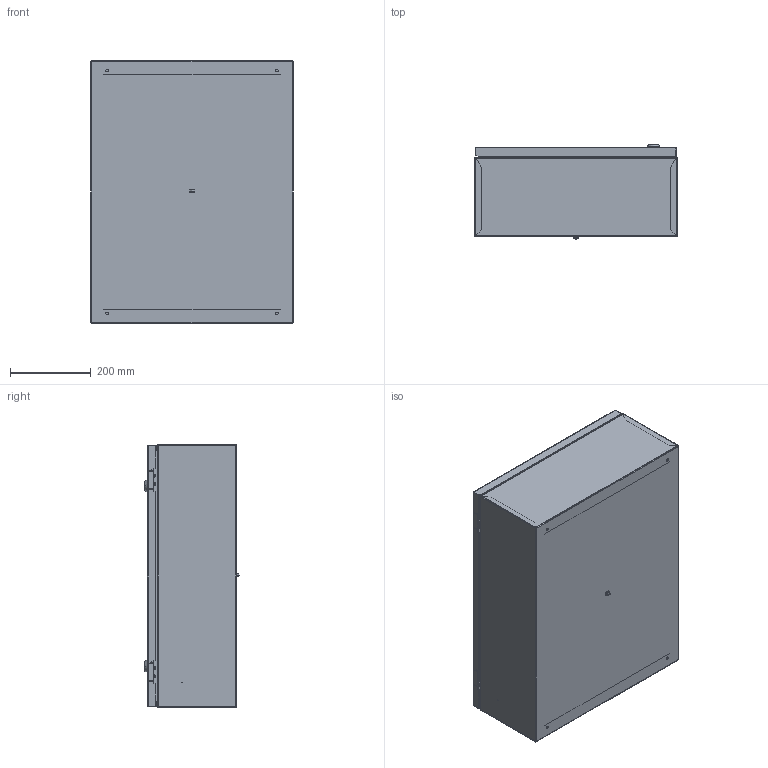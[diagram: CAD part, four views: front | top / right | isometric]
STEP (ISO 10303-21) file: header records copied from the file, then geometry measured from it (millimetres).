
FILE_DESCRIPTION (( 'STEP AP214' ), '1' );
FILE_NAME ('ÙÌÏ-03-650õ500õ220-IP31-ÓÕË3-ÊÝÀÇ.STEP', '2023-01-24T12:22:39', ( '' ), ( '' ), 'SwSTEP 2.0', 'SolidWorks 2018', '' );
FILE_SCHEMA (( 'AUTOMOTIVE_DESIGN' ));
Length unit declared in the file: millimetre
Products named in the file (1): ÙÌÏ-03-650õ500õ220-IP31-ÓÕË3-ÊÝÀÇ
Bounding box: 500 x 233.36 x 650 mm (x, y, z)
Surface area: 2353698.7 mm2 (no closed solid volume)
Topology: 0 solids, 32 shells, 211 faces, 764 edges, 570 vertices
Faces by surface type: plane 102, cylinder 71, bspline 18, cone 14, torus 6
Entity records: 12790 total; most frequent: CARTESIAN_POINT 4154, DIRECTION 1284, ORIENTED_EDGE 1068, EDGE_CURVE 764, VERTEX_POINT 570, LINE 454, VECTOR 454, AXIS2_PLACEMENT_3D 415
